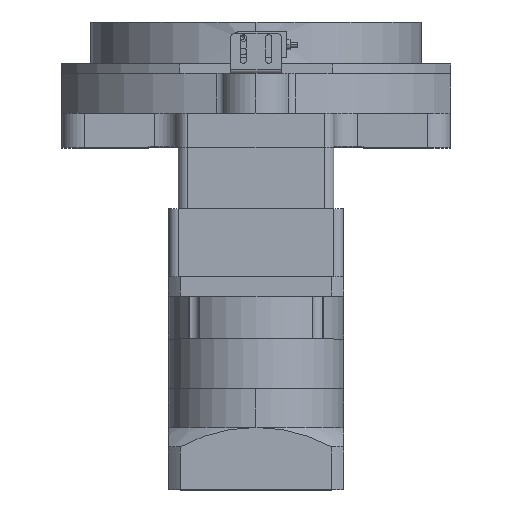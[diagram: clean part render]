
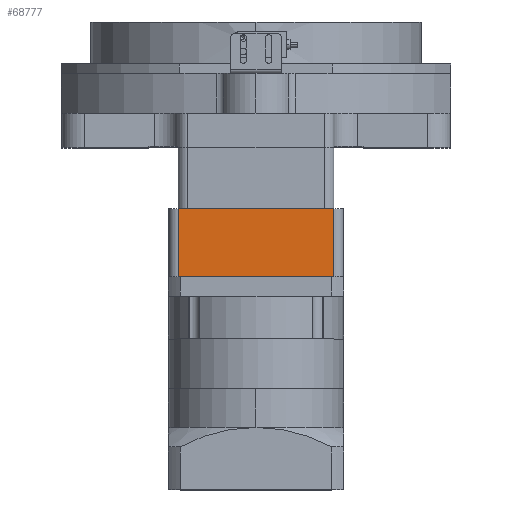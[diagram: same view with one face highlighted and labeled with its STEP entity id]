
A CAD part, top view. The second image highlights one B-rep face of the part: STEP entity #68777.
In plain terms, the highlighted planar face has unit normal (0, 0, 1).
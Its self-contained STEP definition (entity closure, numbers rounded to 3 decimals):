
#64962 = PLANE('',#64963);
#64963 = AXIS2_PLACEMENT_3D('',#64964,#64965,#64966);
#64964 = CARTESIAN_POINT('',(-75.36,-32.246,100.));
#64965 = DIRECTION('',(0.,-1.,0.));
#64966 = DIRECTION('',(-1.,0.,0.));
#65814 = PLANE('',#65815);
#65815 = AXIS2_PLACEMENT_3D('',#65816,#65817,#65818);
#65816 = CARTESIAN_POINT('',(-113.36,-67.246,240.5));
#65817 = DIRECTION('',(0.,1.,0.));
#65818 = DIRECTION('',(1.,0.,0.));
#67853 = VERTEX_POINT('',#67854);
#67854 = CARTESIAN_POINT('',(-35.36,-67.246,247.5));
#67873 = CYLINDRICAL_SURFACE('',#67874,5.);
#67874 = AXIS2_PLACEMENT_3D('',#67875,#67876,#67877);
#67875 = CARTESIAN_POINT('',(-35.36,-32.246,242.5));
#67876 = DIRECTION('',(0.,-1.,0.));
#67877 = DIRECTION('',(0.,0.,-1.));
#67885 = EDGE_CURVE('',#67853,#67886,#67888,.T.);
#67886 = VERTEX_POINT('',#67887);
#67887 = CARTESIAN_POINT('',(-115.36,-67.246,247.5));
#67888 = SURFACE_CURVE('',#67889,(#67893,#67900),.PCURVE_S1.);
#67889 = LINE('',#67890,#67891);
#67890 = CARTESIAN_POINT('',(-115.36,-67.246,247.5));
#67891 = VECTOR('',#67892,1.);
#67892 = DIRECTION('',(-1.,-0.,0.));
#67893 = PCURVE('',#65814,#67894);
#67894 = DEFINITIONAL_REPRESENTATION('',(#67895),#67899);
#67895 = LINE('',#67896,#67897);
#67896 = CARTESIAN_POINT('',(-2.,-7.));
#67897 = VECTOR('',#67898,1.);
#67898 = DIRECTION('',(-1.,0.));
#67899 = ( GEOMETRIC_REPRESENTATION_CONTEXT(2) 
PARAMETRIC_REPRESENTATION_CONTEXT() REPRESENTATION_CONTEXT('2D SPACE',''
  ) );
#67900 = PCURVE('',#67901,#67906);
#67901 = PLANE('',#67902);
#67902 = AXIS2_PLACEMENT_3D('',#67903,#67904,#67905);
#67903 = CARTESIAN_POINT('',(-115.36,-32.246,247.5));
#67904 = DIRECTION('',(0.,0.,1.));
#67905 = DIRECTION('',(1.,0.,0.));
#67906 = DEFINITIONAL_REPRESENTATION('',(#67907),#67911);
#67907 = LINE('',#67908,#67909);
#67908 = CARTESIAN_POINT('',(0.,-35.));
#67909 = VECTOR('',#67910,1.);
#67910 = DIRECTION('',(-1.,0.));
#67911 = ( GEOMETRIC_REPRESENTATION_CONTEXT(2) 
PARAMETRIC_REPRESENTATION_CONTEXT() REPRESENTATION_CONTEXT('2D SPACE',''
  ) );
#67934 = CYLINDRICAL_SURFACE('',#67935,5.);
#67935 = AXIS2_PLACEMENT_3D('',#67936,#67937,#67938);
#67936 = CARTESIAN_POINT('',(-115.36,-32.246,242.5));
#67937 = DIRECTION('',(0.,-1.,0.));
#67938 = DIRECTION('',(0.,0.,-1.));
#68532 = VERTEX_POINT('',#68533);
#68533 = CARTESIAN_POINT('',(-115.36,-32.246,247.5));
#68555 = EDGE_CURVE('',#68556,#68532,#68558,.T.);
#68556 = VERTEX_POINT('',#68557);
#68557 = CARTESIAN_POINT('',(-35.36,-32.246,247.5));
#68558 = SURFACE_CURVE('',#68559,(#68563,#68570),.PCURVE_S1.);
#68559 = LINE('',#68560,#68561);
#68560 = CARTESIAN_POINT('',(-115.36,-32.246,247.5));
#68561 = VECTOR('',#68562,1.);
#68562 = DIRECTION('',(-1.,-0.,0.));
#68563 = PCURVE('',#64962,#68564);
#68564 = DEFINITIONAL_REPRESENTATION('',(#68565),#68569);
#68565 = LINE('',#68566,#68567);
#68566 = CARTESIAN_POINT('',(40.,-147.5));
#68567 = VECTOR('',#68568,1.);
#68568 = DIRECTION('',(1.,0.));
#68569 = ( GEOMETRIC_REPRESENTATION_CONTEXT(2) 
PARAMETRIC_REPRESENTATION_CONTEXT() REPRESENTATION_CONTEXT('2D SPACE',''
  ) );
#68570 = PCURVE('',#67901,#68571);
#68571 = DEFINITIONAL_REPRESENTATION('',(#68572),#68576);
#68572 = LINE('',#68573,#68574);
#68573 = CARTESIAN_POINT('',(0.,0.));
#68574 = VECTOR('',#68575,1.);
#68575 = DIRECTION('',(-1.,0.));
#68576 = ( GEOMETRIC_REPRESENTATION_CONTEXT(2) 
PARAMETRIC_REPRESENTATION_CONTEXT() REPRESENTATION_CONTEXT('2D SPACE',''
  ) );
#68755 = EDGE_CURVE('',#68532,#67886,#68756,.T.);
#68756 = SURFACE_CURVE('',#68757,(#68761,#68768),.PCURVE_S1.);
#68757 = LINE('',#68758,#68759);
#68758 = CARTESIAN_POINT('',(-115.36,-32.246,247.5));
#68759 = VECTOR('',#68760,1.);
#68760 = DIRECTION('',(0.,-1.,0.));
#68761 = PCURVE('',#67934,#68762);
#68762 = DEFINITIONAL_REPRESENTATION('',(#68763),#68767);
#68763 = LINE('',#68764,#68765);
#68764 = CARTESIAN_POINT('',(3.142,0.));
#68765 = VECTOR('',#68766,1.);
#68766 = DIRECTION('',(0.,1.));
#68767 = ( GEOMETRIC_REPRESENTATION_CONTEXT(2) 
PARAMETRIC_REPRESENTATION_CONTEXT() REPRESENTATION_CONTEXT('2D SPACE',''
  ) );
#68768 = PCURVE('',#67901,#68769);
#68769 = DEFINITIONAL_REPRESENTATION('',(#68770),#68774);
#68770 = LINE('',#68771,#68772);
#68771 = CARTESIAN_POINT('',(0.,0.));
#68772 = VECTOR('',#68773,1.);
#68773 = DIRECTION('',(0.,-1.));
#68774 = ( GEOMETRIC_REPRESENTATION_CONTEXT(2) 
PARAMETRIC_REPRESENTATION_CONTEXT() REPRESENTATION_CONTEXT('2D SPACE',''
  ) );
#68777 = ADVANCED_FACE('',(#68778),#67901,.T.);
#68778 = FACE_BOUND('',#68779,.T.);
#68779 = EDGE_LOOP('',(#68780,#68781,#68802,#68803));
#68780 = ORIENTED_EDGE('',*,*,#67885,.F.);
#68781 = ORIENTED_EDGE('',*,*,#68782,.F.);
#68782 = EDGE_CURVE('',#68556,#67853,#68783,.T.);
#68783 = SURFACE_CURVE('',#68784,(#68788,#68795),.PCURVE_S1.);
#68784 = LINE('',#68785,#68786);
#68785 = CARTESIAN_POINT('',(-35.36,-32.246,247.5));
#68786 = VECTOR('',#68787,1.);
#68787 = DIRECTION('',(0.,-1.,0.));
#68788 = PCURVE('',#67901,#68789);
#68789 = DEFINITIONAL_REPRESENTATION('',(#68790),#68794);
#68790 = LINE('',#68791,#68792);
#68791 = CARTESIAN_POINT('',(80.,0.));
#68792 = VECTOR('',#68793,1.);
#68793 = DIRECTION('',(0.,-1.));
#68794 = ( GEOMETRIC_REPRESENTATION_CONTEXT(2) 
PARAMETRIC_REPRESENTATION_CONTEXT() REPRESENTATION_CONTEXT('2D SPACE',''
  ) );
#68795 = PCURVE('',#67873,#68796);
#68796 = DEFINITIONAL_REPRESENTATION('',(#68797),#68801);
#68797 = LINE('',#68798,#68799);
#68798 = CARTESIAN_POINT('',(3.142,0.));
#68799 = VECTOR('',#68800,1.);
#68800 = DIRECTION('',(0.,1.));
#68801 = ( GEOMETRIC_REPRESENTATION_CONTEXT(2) 
PARAMETRIC_REPRESENTATION_CONTEXT() REPRESENTATION_CONTEXT('2D SPACE',''
  ) );
#68802 = ORIENTED_EDGE('',*,*,#68555,.T.);
#68803 = ORIENTED_EDGE('',*,*,#68755,.T.);
